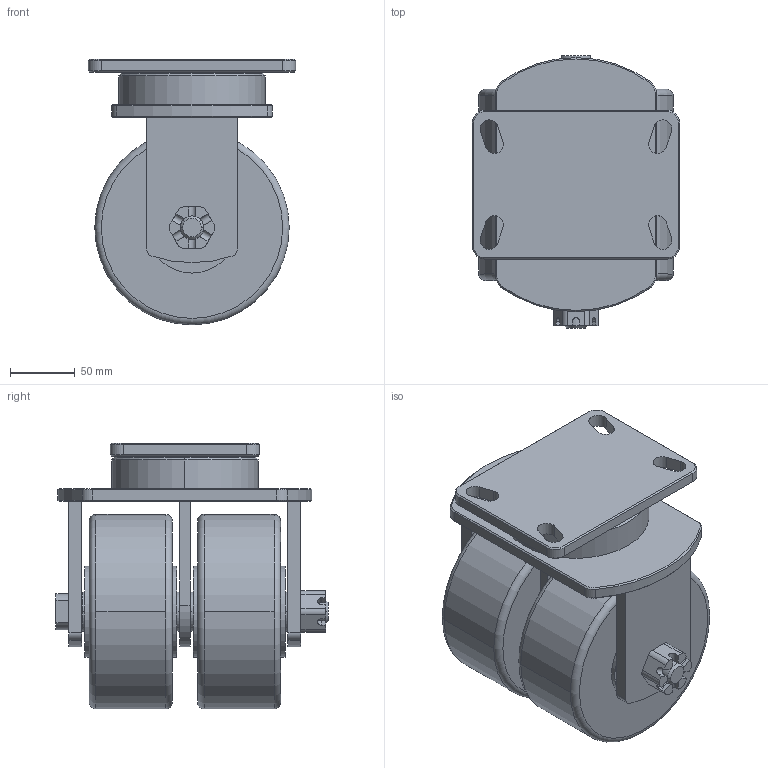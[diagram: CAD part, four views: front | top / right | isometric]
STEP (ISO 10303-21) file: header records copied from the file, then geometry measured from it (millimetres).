
FILE_DESCRIPTION(/* description */ (''),/* implementation_level */ '2;1');
FILE_NAME(/* name */ '40B02_6_F.stp',/* time_stamp */ '2022-08-29T10:25:24+08:00',/* author */ (''),/* organization */ (''),/* preprocessor_version */ 'ST-DEVELOPER v14',/* originating_system */ 'SIEMENS PLM Software NX 8.0',/* authorisation */ '');
FILE_SCHEMA (('AUTOMOTIVE_DESIGN { 1 0 10303 214 3 1 1 1 }'));
Length unit declared in the file: millimetre
Products named in the file (1): 40B02_6_F
Bounding box: 160 x 210 x 205 mm (x, y, z)
Volume: 3179541.5 mm3; surface area: 279089 mm2
Topology: 1 solids, 1 shells, 387 faces, 1036 edges, 687 vertices
Faces by surface type: plane 249, cylinder 106, cone 26, torus 6
Full cylindrical faces by diameter (mm): 70 x4
Entity records: 12620 total; most frequent: CARTESIAN_POINT 3153, ORIENTED_EDGE 2056, DIRECTION 1817, EDGE_CURVE 1028, VERTEX_POINT 687, AXIS2_PLACEMENT_3D 662, LINE 493, VECTOR 493
